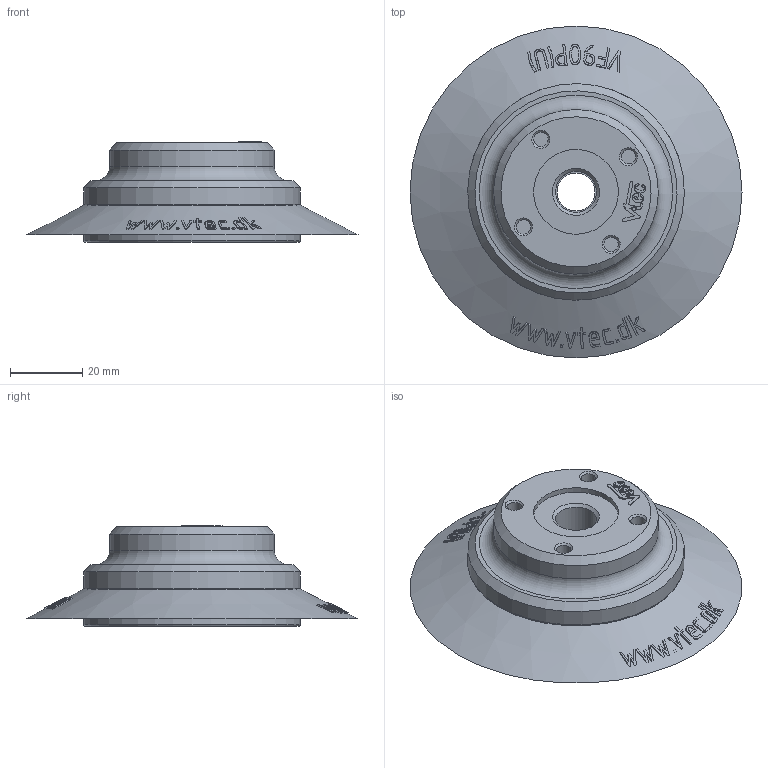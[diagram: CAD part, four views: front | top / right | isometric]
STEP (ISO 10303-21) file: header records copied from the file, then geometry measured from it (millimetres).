
FILE_DESCRIPTION( ( 'STEP AP203' ), '1' );
FILE_NAME( 'C:/Documents and Settings/Owner/官帕 拳搁/3D/Vacuum Pad/VF series/VF90-14F.stp', '2006-04-25T04:47:02', ( ' ' ), ( ' ' ), 'XStep 1.0', ' ', ' ' );
FILE_SCHEMA( ( 'CONFIG_CONTROL_DESIGN) ( )' ) );
Length unit declared in the file: metre
Products named in the file (3): Assem1; 1; 2
Bounding box: 92 x 92 x 27.85 mm (x, y, z)
Volume: 99296.3 mm3; surface area: 53092.3 mm2
Topology: 4 solids, 4 shells, 1240 faces, 3358 edges, 2216 vertices
Faces by surface type: plane 574, cylinder 298, bspline 284, cone 72, torus 8, extrusion 4
Full cylindrical faces by diameter (mm): 0.791 x2, 4 x16, 6.4 x8, 10.5 x2, 11.4 x2, 15 x2, 23.5 x2, 45.6 x2, 55 x4, 60 x2
Entity records: 27139 total; most frequent: CARTESIAN_POINT 12342, ORIENTED_EDGE 3258, DIRECTION 2603, EDGE_CURVE 1629, VERTEX_POINT 1097, VECTOR 935, LINE 933, AXIS2_PLACEMENT_3D 834
